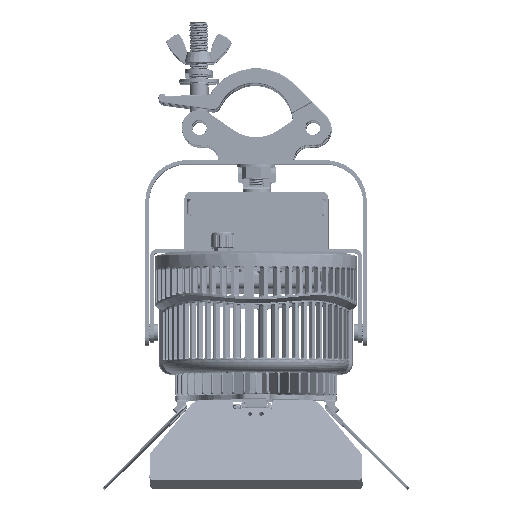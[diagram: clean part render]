
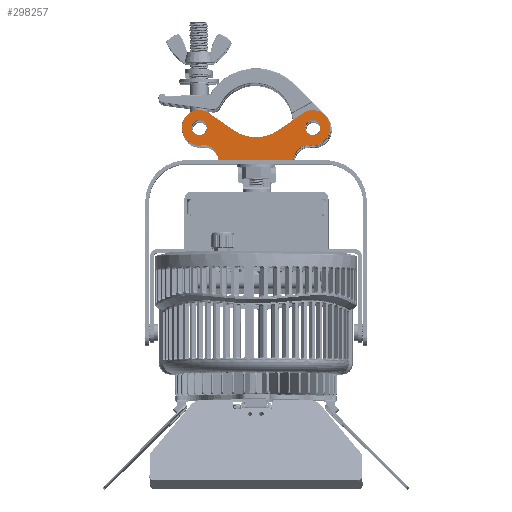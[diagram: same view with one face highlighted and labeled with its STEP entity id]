
A CAD part, top view. The second image highlights one B-rep face of the part: STEP entity #298257.
In plain terms, the highlighted planar face has unit normal (-0.003, 0.023, 1) as drawn and (0, 0, -1) by its records, which use the part's own axes.
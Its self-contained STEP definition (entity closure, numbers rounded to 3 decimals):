
#214 = DIRECTION ( 'NONE',  ( -1., 0., 0. ) ) ;
#570 = EDGE_CURVE ( 'NONE', #1635, #78543, #47119, .T. ) ;
#1635 = VERTEX_POINT ( 'NONE', #76106 ) ;
#6762 = CARTESIAN_POINT ( 'NONE',  ( -37.5, 21.354, -15. ) ) ;
#7495 = CARTESIAN_POINT ( 'NONE',  ( 24.046, 1., -15. ) ) ;
#10410 = FACE_BOUND ( 'NONE', #144929, .T. ) ;
#25546 = VERTEX_POINT ( 'NONE', #285221 ) ;
#26697 = ORIENTED_EDGE ( 'NONE', *, *, #122882, .T. ) ;
#26946 = CARTESIAN_POINT ( 'NONE',  ( -24.046, 1., -15. ) ) ;
#31875 = CIRCLE ( 'NONE', #77214, 11.5 ) ;
#33190 = VECTOR ( 'NONE', #165073, 1000. ) ;
#37084 = CARTESIAN_POINT ( 'NONE',  ( -35., 0., -15. ) ) ;
#47119 = CIRCLE ( 'NONE', #347749, 1. ) ;
#47890 = VERTEX_POINT ( 'NONE', #173731 ) ;
#52803 = DIRECTION ( 'NONE',  ( -1., 0., 0. ) ) ;
#56702 = CARTESIAN_POINT ( 'NONE',  ( -25.041, 0.909, -15. ) ) ;
#56759 = LINE ( 'NONE', #271831, #33190 ) ;
#57344 = CARTESIAN_POINT ( 'NONE',  ( 30.956, 30.811, -15. ) ) ;
#58548 = DIRECTION ( 'NONE',  ( 1., 0., 0. ) ) ;
#59100 = LINE ( 'NONE', #57344, #226562 ) ;
#59372 = EDGE_CURVE ( 'NONE', #130178, #285167, #317782, .T. ) ;
#67185 = DIRECTION ( 'NONE',  ( 0., 0., 1. ) ) ;
#69558 = VERTEX_POINT ( 'NONE', #215243 ) ;
#76106 = CARTESIAN_POINT ( 'NONE',  ( -24.046, 0., -15. ) ) ;
#77214 = AXIS2_PLACEMENT_3D ( 'NONE', #134416, #214452, #52803 ) ;
#78449 = DIRECTION ( 'NONE',  ( 0., 0., -1. ) ) ;
#78543 = VERTEX_POINT ( 'NONE', #56702 ) ;
#79513 = AXIS2_PLACEMENT_3D ( 'NONE', #7495, #117567, #199223 ) ;
#85120 = CARTESIAN_POINT ( 'NONE',  ( 24.046, 0., -15. ) ) ;
#86087 = EDGE_CURVE ( 'NONE', #244662, #336328, #165354, .T. ) ;
#88457 = DIRECTION ( 'NONE',  ( 0., 0., 1. ) ) ;
#90395 = CARTESIAN_POINT ( 'NONE',  ( -37.5, 21.354, -15. ) ) ;
#95100 = EDGE_CURVE ( 'NONE', #173278, #249732, #110533, .T. ) ;
#100702 = EDGE_CURVE ( 'NONE', #285167, #25546, #183537, .T. ) ;
#101188 = ORIENTED_EDGE ( 'NONE', *, *, #106954, .T. ) ;
#104499 = CARTESIAN_POINT ( 'NONE',  ( -49., 21.354, -15. ) ) ;
#106954 = EDGE_CURVE ( 'NONE', #144753, #47890, #303777, .T. ) ;
#108367 = EDGE_CURVE ( 'NONE', #25546, #165646, #31875, .T. ) ;
#110533 = CIRCLE ( 'NONE', #309219, 10. ) ;
#115099 = EDGE_CURVE ( 'NONE', #254542, #130178, #59100, .T. ) ;
#115636 = CARTESIAN_POINT ( 'NONE',  ( 0., 40.4, -15. ) ) ;
#115821 = ORIENTED_EDGE ( 'NONE', *, *, #121241, .F. ) ;
#116052 = ORIENTED_EDGE ( 'NONE', *, *, #86087, .T. ) ;
#117567 = DIRECTION ( 'NONE',  ( 0., 0., -1. ) ) ;
#121241 = EDGE_CURVE ( 'NONE', #165646, #69558, #154612, .T. ) ;
#122882 = EDGE_CURVE ( 'NONE', #336328, #244662, #342659, .T. ) ;
#130178 = VERTEX_POINT ( 'NONE', #227348 ) ;
#134416 = CARTESIAN_POINT ( 'NONE',  ( -37.5, 21.354, -15. ) ) ;
#136866 = EDGE_LOOP ( 'NONE', ( #116052, #26697 ) ) ;
#136897 = AXIS2_PLACEMENT_3D ( 'NONE', #6762, #88457, #271647 ) ;
#139242 = CARTESIAN_POINT ( 'NONE',  ( -35., 0., -15. ) ) ;
#141684 = ORIENTED_EDGE ( 'NONE', *, *, #95100, .F. ) ;
#144409 = DIRECTION ( 'NONE',  ( 0., 0., 1. ) ) ;
#144753 = VERTEX_POINT ( 'NONE', #184747 ) ;
#144929 = EDGE_LOOP ( 'NONE', ( #174930, #101188 ) ) ;
#145968 = EDGE_LOOP ( 'NONE', ( #141684, #154464, #290296, #301495, #215956, #115821, #202987, #265033, #299186, #244431, #157504 ) ) ;
#147331 = EDGE_CURVE ( 'NONE', #249732, #254542, #159838, .T. ) ;
#151358 = CARTESIAN_POINT ( 'NONE',  ( -32.5, 21.354, -15. ) ) ;
#154464 = ORIENTED_EDGE ( 'NONE', *, *, #189066, .T. ) ;
#154612 = CIRCLE ( 'NONE', #251154, 11.5 ) ;
#156008 = AXIS2_PLACEMENT_3D ( 'NONE', #199557, #144409, #169394 ) ;
#156727 = DIRECTION ( 'NONE',  ( 0., 0., 1. ) ) ;
#157504 = ORIENTED_EDGE ( 'NONE', *, *, #147331, .F. ) ;
#157530 = EDGE_CURVE ( 'NONE', #1635, #202800, #56759, .T. ) ;
#159838 = CIRCLE ( 'NONE', #199679, 11.5 ) ;
#165073 = DIRECTION ( 'NONE',  ( 1., 0., 0. ) ) ;
#165082 = CARTESIAN_POINT ( 'NONE',  ( 25.041, 0.909, -15. ) ) ;
#165354 = CIRCLE ( 'NONE', #136897, 5. ) ;
#165646 = VERTEX_POINT ( 'NONE', #104499 ) ;
#169394 = DIRECTION ( 'NONE',  ( 1., 0., 0. ) ) ;
#170074 = CARTESIAN_POINT ( 'NONE',  ( 36.163, 9.932, -15. ) ) ;
#173278 = VERTEX_POINT ( 'NONE', #165082 ) ;
#173731 = CARTESIAN_POINT ( 'NONE',  ( 32.5, 21.354, -15. ) ) ;
#174930 = ORIENTED_EDGE ( 'NONE', *, *, #348843, .T. ) ;
#176099 = AXIS2_PLACEMENT_3D ( 'NONE', #115636, #222241, #225764 ) ;
#181441 = CARTESIAN_POINT ( 'NONE',  ( 35., 0., -15. ) ) ;
#183537 = LINE ( 'NONE', #341782, #341555 ) ;
#184747 = CARTESIAN_POINT ( 'NONE',  ( 42.5, 21.354, -15. ) ) ;
#187425 = CARTESIAN_POINT ( 'NONE',  ( -42.5, 21.354, -15. ) ) ;
#187844 = EDGE_CURVE ( 'NONE', #69558, #78543, #317041, .T. ) ;
#189066 = EDGE_CURVE ( 'NONE', #173278, #202800, #215718, .T. ) ;
#199223 = DIRECTION ( 'NONE',  ( 1., 0., 0. ) ) ;
#199557 = CARTESIAN_POINT ( 'NONE',  ( 37.5, 21.354, -15. ) ) ;
#199679 = AXIS2_PLACEMENT_3D ( 'NONE', #264052, #200576, #225538 ) ;
#200576 = DIRECTION ( 'NONE',  ( 0., 0., 1. ) ) ;
#201353 = DIRECTION ( 'NONE',  ( 0., 0., -1. ) ) ;
#202176 = FACE_OUTER_BOUND ( 'NONE', #145968, .T. ) ;
#202800 = VERTEX_POINT ( 'NONE', #85120 ) ;
#202987 = ORIENTED_EDGE ( 'NONE', *, *, #108367, .F. ) ;
#214452 = DIRECTION ( 'NONE',  ( 0., 0., 1. ) ) ;
#215243 = CARTESIAN_POINT ( 'NONE',  ( -36.163, 9.932, -15. ) ) ;
#215718 = CIRCLE ( 'NONE', #79513, 1. ) ;
#215956 = ORIENTED_EDGE ( 'NONE', *, *, #187844, .F. ) ;
#220197 = DIRECTION ( 'NONE',  ( 0., 0., 1. ) ) ;
#222241 = DIRECTION ( 'NONE',  ( 0., 0., -1. ) ) ;
#225538 = DIRECTION ( 'NONE',  ( 1., 0., 0. ) ) ;
#225764 = DIRECTION ( 'NONE',  ( 1., 0., 0. ) ) ;
#226562 = VECTOR ( 'NONE', #247463, 1000. ) ;
#227088 = DIRECTION ( 'NONE',  ( 1., 0., 0. ) ) ;
#227348 = CARTESIAN_POINT ( 'NONE',  ( 14.51, 19.431, -15. ) ) ;
#232335 = CARTESIAN_POINT ( 'NONE',  ( 37.5, 21.354, -15. ) ) ;
#239822 = CARTESIAN_POINT ( 'NONE',  ( 30.956, 30.811, -15. ) ) ;
#244431 = ORIENTED_EDGE ( 'NONE', *, *, #115099, .F. ) ;
#244496 = CARTESIAN_POINT ( 'NONE',  ( -14.51, 19.431, -15. ) ) ;
#244662 = VERTEX_POINT ( 'NONE', #187425 ) ;
#247463 = DIRECTION ( 'NONE',  ( -0.822, -0.569, 0. ) ) ;
#249732 = VERTEX_POINT ( 'NONE', #170074 ) ;
#251154 = AXIS2_PLACEMENT_3D ( 'NONE', #270492, #156727, #268748 ) ;
#254542 = VERTEX_POINT ( 'NONE', #239822 ) ;
#255535 = PLANE ( 'NONE',  #306834 ) ;
#264052 = CARTESIAN_POINT ( 'NONE',  ( 37.5, 21.354, -15. ) ) ;
#265033 = ORIENTED_EDGE ( 'NONE', *, *, #100702, .F. ) ;
#266022 = AXIS2_PLACEMENT_3D ( 'NONE', #139242, #201353, #333007 ) ;
#268748 = DIRECTION ( 'NONE',  ( -1., 0., 0. ) ) ;
#270492 = CARTESIAN_POINT ( 'NONE',  ( -37.5, 21.354, -15. ) ) ;
#271647 = DIRECTION ( 'NONE',  ( 1., 0., 0. ) ) ;
#271831 = CARTESIAN_POINT ( 'NONE',  ( -25., 0., -15. ) ) ;
#272114 = DIRECTION ( 'NONE',  ( 1., 0., 0. ) ) ;
#282988 = DIRECTION ( 'NONE',  ( 0., 0., -1. ) ) ;
#285167 = VERTEX_POINT ( 'NONE', #244496 ) ;
#285221 = CARTESIAN_POINT ( 'NONE',  ( -30.956, 30.811, -15. ) ) ;
#285748 = FACE_BOUND ( 'NONE', #136866, .T. ) ;
#285771 = DIRECTION ( 'NONE',  ( 0., 0., 1. ) ) ;
#288528 = DIRECTION ( 'NONE',  ( -0.822, 0.569, 0. ) ) ;
#290296 = ORIENTED_EDGE ( 'NONE', *, *, #157530, .F. ) ;
#292344 = CIRCLE ( 'NONE', #156008, 5. ) ;
#298257 = ADVANCED_FACE ( 'NONE', ( #285748, #202176, #10410 ), #255535, .F. ) ;
#299186 = ORIENTED_EDGE ( 'NONE', *, *, #59372, .F. ) ;
#301495 = ORIENTED_EDGE ( 'NONE', *, *, #570, .T. ) ;
#303777 = CIRCLE ( 'NONE', #315185, 5. ) ;
#306834 = AXIS2_PLACEMENT_3D ( 'NONE', #37084, #67185, #227088 ) ;
#309219 = AXIS2_PLACEMENT_3D ( 'NONE', #181441, #282988, #214 ) ;
#315185 = AXIS2_PLACEMENT_3D ( 'NONE', #232335, #285771, #339056 ) ;
#317041 = CIRCLE ( 'NONE', #266022, 10. ) ;
#317782 = CIRCLE ( 'NONE', #176099, 25.5 ) ;
#326011 = AXIS2_PLACEMENT_3D ( 'NONE', #90395, #220197, #58548 ) ;
#333007 = DIRECTION ( 'NONE',  ( 1., 0., 0. ) ) ;
#336328 = VERTEX_POINT ( 'NONE', #151358 ) ;
#339056 = DIRECTION ( 'NONE',  ( 1., 0., 0. ) ) ;
#341555 = VECTOR ( 'NONE', #288528, 1000. ) ;
#341782 = CARTESIAN_POINT ( 'NONE',  ( -30.956, 30.811, -15. ) ) ;
#342659 = CIRCLE ( 'NONE', #326011, 5. ) ;
#347749 = AXIS2_PLACEMENT_3D ( 'NONE', #26946, #78449, #272114 ) ;
#348843 = EDGE_CURVE ( 'NONE', #47890, #144753, #292344, .T. ) ;
